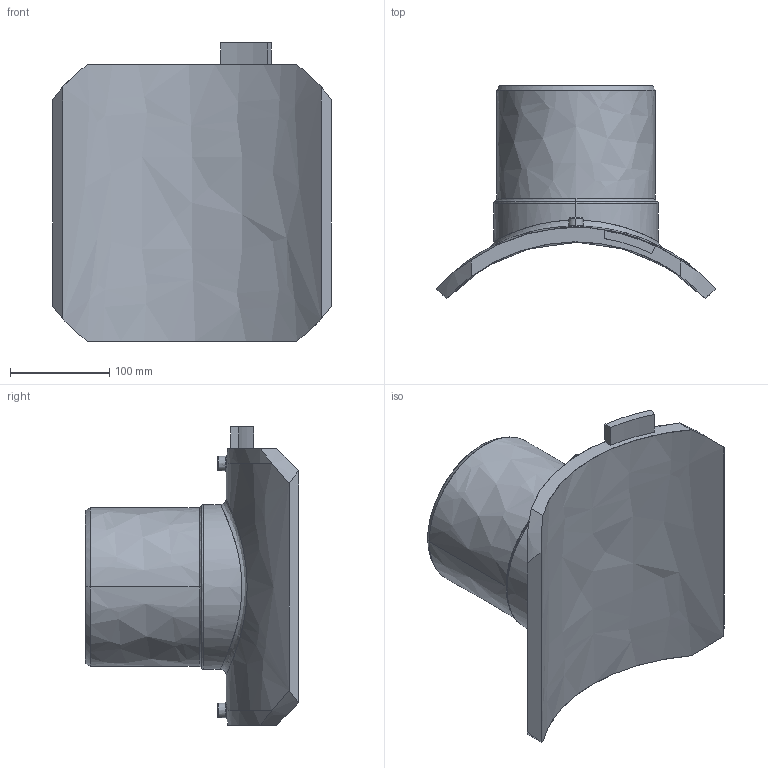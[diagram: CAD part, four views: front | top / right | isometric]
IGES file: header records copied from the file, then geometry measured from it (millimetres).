
Start section:  PTC IGES file: sa-uni_d355_160_01.igs
Global section: file name: sa-uni_d355_160_01.igs; native system: Pro/ENGINEER by Parametric Technology Corporation; preprocessor: 2011490; author: MikulicP; organization: Unknown; date: 20170203.131903; units: millimetre
Bounding box: 281 x 214.87 x 301 mm (x, y, z)
Surface area: 330217 mm2 (no closed solid volume)
Topology: 0 solids, 0 shells, 206 faces, 1018 edges, 1016 vertices
Faces by surface type: bspline 206
